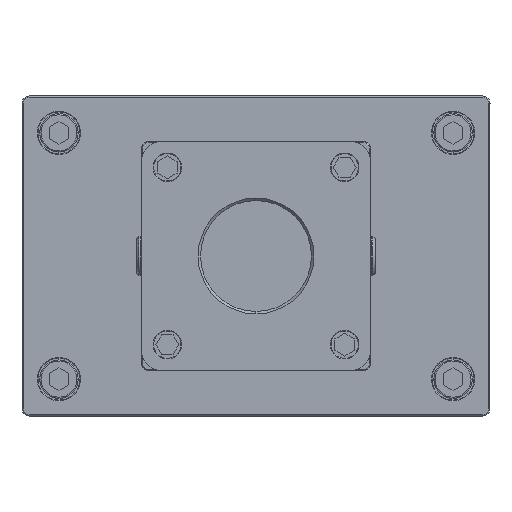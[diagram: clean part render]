
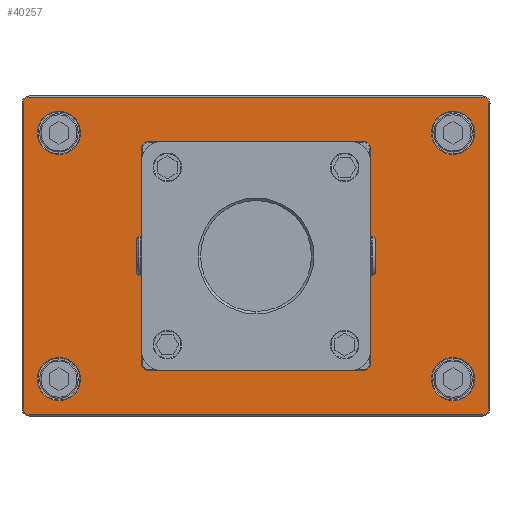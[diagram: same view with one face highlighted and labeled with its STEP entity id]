
A CAD part, front view. The second image highlights one B-rep face of the part: STEP entity #40257.
In plain terms, the highlighted planar face has unit normal (0, -1, 0) as drawn and (0, 1, 0) by its records, which use the part's own axes.
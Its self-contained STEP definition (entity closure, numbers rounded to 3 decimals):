
#38709=CARTESIAN_POINT('',(0.,9.,0.));
#38710=DIRECTION('',(0.,-1.,0.));
#38711=DIRECTION('',(1.,0.,0.));
#38712=AXIS2_PLACEMENT_3D('',#38709,#38710,#38711);
#38714=CARTESIAN_POINT('',(0.,9.,0.));
#38715=DIRECTION('',(0.,-1.,0.));
#38716=DIRECTION('',(-1.,0.,0.));
#38717=AXIS2_PLACEMENT_3D('',#38714,#38715,#38716);
#38719=CARTESIAN_POINT('',(-92.,9.,-62.));
#38720=DIRECTION('',(0.,1.,0.));
#38721=DIRECTION('',(0.,0.,-1.));
#38722=AXIS2_PLACEMENT_3D('',#38719,#38720,#38721);
#38724=DIRECTION('',(-1.,0.,0.));
#38725=VECTOR('',#38724,184.);
#38726=CARTESIAN_POINT('',(92.,9.,
-64.5));
#38727=LINE('',#38726,#38725);
#38728=CARTESIAN_POINT('',(92.,9.,-62.));
#38729=DIRECTION('',(0.,1.,0.));
#38730=DIRECTION('',(1.,0.,0.));
#38731=AXIS2_PLACEMENT_3D('',#38728,#38729,#38730);
#38733=DIRECTION('',(0.,0.,-1.));
#38734=VECTOR('',#38733,124.);
#38735=CARTESIAN_POINT('',(94.5,9.,62.));
#38736=LINE('',#38735,#38734);
#38737=CARTESIAN_POINT('',(92.,9.,62.));
#38738=DIRECTION('',(0.,1.,0.));
#38739=DIRECTION('',(0.,0.,1.));
#38740=AXIS2_PLACEMENT_3D('',#38737,#38738,#38739);
#38742=DIRECTION('',(1.,0.,0.));
#38743=VECTOR('',#38742,184.);
#38744=CARTESIAN_POINT('',(-92.,9.,
64.5));
#38745=LINE('',#38744,#38743);
#38746=CARTESIAN_POINT('',(-92.,9.,62.));
#38747=DIRECTION('',(0.,1.,0.));
#38748=DIRECTION('',(-1.,0.,0.));
#38749=AXIS2_PLACEMENT_3D('',#38746,#38747,#38748);
#38751=DIRECTION('',(0.,0.,1.));
#38752=VECTOR('',#38751,124.);
#38753=CARTESIAN_POINT('',(-94.5,9.,
-62.));
#38754=LINE('',#38753,#38752);
#38755=CARTESIAN_POINT('',(80.,9.,50.));
#38756=DIRECTION('',(0.,-1.,0.));
#38757=DIRECTION('',(1.,0.,0.));
#38758=AXIS2_PLACEMENT_3D('',#38755,#38756,#38757);
#38760=CARTESIAN_POINT('',(80.,9.,50.));
#38761=DIRECTION('',(0.,-1.,0.));
#38762=DIRECTION('',(-1.,0.,0.));
#38763=AXIS2_PLACEMENT_3D('',#38760,#38761,#38762);
#38765=CARTESIAN_POINT('',(-80.,9.,50.));
#38766=DIRECTION('',(0.,-1.,0.));
#38767=DIRECTION('',(1.,0.,0.));
#38768=AXIS2_PLACEMENT_3D('',#38765,#38766,#38767);
#38770=CARTESIAN_POINT('',(-80.,9.,50.));
#38771=DIRECTION('',(0.,-1.,0.));
#38772=DIRECTION('',(-1.,0.,0.));
#38773=AXIS2_PLACEMENT_3D('',#38770,#38771,#38772);
#38775=CARTESIAN_POINT('',(80.,9.,-50.));
#38776=DIRECTION('',(0.,-1.,0.));
#38777=DIRECTION('',(1.,0.,0.));
#38778=AXIS2_PLACEMENT_3D('',#38775,#38776,#38777);
#38780=CARTESIAN_POINT('',(80.,9.,-50.));
#38781=DIRECTION('',(0.,-1.,0.));
#38782=DIRECTION('',(-1.,0.,0.));
#38783=AXIS2_PLACEMENT_3D('',#38780,#38781,#38782);
#38785=CARTESIAN_POINT('',(-80.,9.,-50.));
#38786=DIRECTION('',(0.,-1.,0.));
#38787=DIRECTION('',(1.,0.,0.));
#38788=AXIS2_PLACEMENT_3D('',#38785,#38786,#38787);
#38790=CARTESIAN_POINT('',(-80.,9.,-50.));
#38791=DIRECTION('',(0.,-1.,0.));
#38792=DIRECTION('',(-1.,0.,0.));
#38793=AXIS2_PLACEMENT_3D('',#38790,#38791,#38792);
#38795=CARTESIAN_POINT('',(-36.,9.,-36.));
#38796=DIRECTION('',(0.,1.,0.));
#38797=DIRECTION('',(1.,0.,0.));
#38798=AXIS2_PLACEMENT_3D('',#38795,#38796,#38797);
#38800=CARTESIAN_POINT('',(-36.,9.,-36.));
#38801=DIRECTION('',(0.,1.,0.));
#38802=DIRECTION('',(-1.,0.,0.));
#38803=AXIS2_PLACEMENT_3D('',#38800,#38801,#38802);
#38805=CARTESIAN_POINT('',(-36.,9.,36.));
#38806=DIRECTION('',(0.,1.,0.));
#38807=DIRECTION('',(0.,0.,-1.));
#38808=AXIS2_PLACEMENT_3D('',#38805,#38806,#38807);
#38810=CARTESIAN_POINT('',(-36.,9.,36.));
#38811=DIRECTION('',(0.,1.,0.));
#38812=DIRECTION('',(0.,0.,1.));
#38813=AXIS2_PLACEMENT_3D('',#38810,#38811,#38812);
#38815=CARTESIAN_POINT('',(36.,9.,36.));
#38816=DIRECTION('',(0.,1.,0.));
#38817=DIRECTION('',(-1.,0.,0.));
#38818=AXIS2_PLACEMENT_3D('',#38815,#38816,#38817);
#38820=CARTESIAN_POINT('',(36.,9.,36.));
#38821=DIRECTION('',(0.,1.,0.));
#38822=DIRECTION('',(1.,0.,0.));
#38823=AXIS2_PLACEMENT_3D('',#38820,#38821,#38822);
#38825=CARTESIAN_POINT('',(36.,9.,-36.));
#38826=DIRECTION('',(0.,1.,0.));
#38827=DIRECTION('',(0.,0.,1.));
#38828=AXIS2_PLACEMENT_3D('',#38825,#38826,#38827);
#38830=CARTESIAN_POINT('',(36.,9.,-36.));
#38831=DIRECTION('',(0.,1.,0.));
#38832=DIRECTION('',(0.,0.,-1.));
#38833=AXIS2_PLACEMENT_3D('',#38830,#38831,#38832);
#39741=CARTESIAN_POINT('',(38.,9.,0.));
#39742=CARTESIAN_POINT('',(-38.,9.,0.));
#39743=VERTEX_POINT('',#39741);
#39744=VERTEX_POINT('',#39742);
#39789=CARTESIAN_POINT('',(-92.,9.,-64.5));
#39790=CARTESIAN_POINT('',(-94.5,9.,-62.));
#39791=VERTEX_POINT('',#39789);
#39792=VERTEX_POINT('',#39790);
#39797=CARTESIAN_POINT('',(-94.5,9.,
62.));
#39798=VERTEX_POINT('',#39797);
#39801=CARTESIAN_POINT('',(-92.,9.,64.5));
#39802=VERTEX_POINT('',#39801);
#39805=CARTESIAN_POINT('',(92.,9.,64.5));
#39806=VERTEX_POINT('',#39805);
#39809=CARTESIAN_POINT('',(94.5,9.,62.));
#39810=VERTEX_POINT('',#39809);
#39813=CARTESIAN_POINT('',(94.5,9.,
-62.));
#39814=VERTEX_POINT('',#39813);
#39817=CARTESIAN_POINT('',(92.,9.,-64.5));
#39818=VERTEX_POINT('',#39817);
#39837=CARTESIAN_POINT('',(88.8,9.,50.));
#39838=CARTESIAN_POINT('',(71.2,9.,50.));
#39839=VERTEX_POINT('',#39837);
#39840=VERTEX_POINT('',#39838);
#39861=CARTESIAN_POINT('',(-71.2,9.,50.));
#39862=CARTESIAN_POINT('',(-88.8,9.,50.));
#39863=VERTEX_POINT('',#39861);
#39864=VERTEX_POINT('',#39862);
#39877=CARTESIAN_POINT('',(88.8,9.,-50.));
#39878=CARTESIAN_POINT('',(71.2,9.,-50.));
#39879=VERTEX_POINT('',#39877);
#39880=VERTEX_POINT('',#39878);
#39885=CARTESIAN_POINT('',(-71.2,9.,-50.));
#39886=CARTESIAN_POINT('',(-88.8,9.,-50.));
#39887=VERTEX_POINT('',#39885);
#39888=VERTEX_POINT('',#39886);
#39985=CARTESIAN_POINT('',(-31.,9.,-36.));
#39986=CARTESIAN_POINT('',(-41.,9.,-36.));
#39987=VERTEX_POINT('',#39985);
#39988=VERTEX_POINT('',#39986);
#39993=CARTESIAN_POINT('',(-36.,9.,31.));
#39994=CARTESIAN_POINT('',(-36.,9.,41.));
#39995=VERTEX_POINT('',#39993);
#39996=VERTEX_POINT('',#39994);
#40001=CARTESIAN_POINT('',(31.,9.,36.));
#40002=CARTESIAN_POINT('',(41.,9.,36.));
#40003=VERTEX_POINT('',#40001);
#40004=VERTEX_POINT('',#40002);
#40009=CARTESIAN_POINT('',(36.,9.,-31.));
#40010=CARTESIAN_POINT('',(36.,9.,-41.));
#40011=VERTEX_POINT('',#40009);
#40012=VERTEX_POINT('',#40010);
#40181=CARTESIAN_POINT('',(0.,9.,0.));
#40182=DIRECTION('',(0.,1.,0.));
#40183=DIRECTION('',(1.,0.,0.));
#40184=AXIS2_PLACEMENT_3D('',#40181,#40182,#40183);
#40185=PLANE('',#40184);
#40187=ORIENTED_EDGE('',*,*,#40186,.F.);
#40189=ORIENTED_EDGE('',*,*,#40188,.F.);
#40191=ORIENTED_EDGE('',*,*,#40190,.F.);
#40193=ORIENTED_EDGE('',*,*,#40192,.F.);
#40195=ORIENTED_EDGE('',*,*,#40194,.F.);
#40197=ORIENTED_EDGE('',*,*,#40196,.F.);
#40199=ORIENTED_EDGE('',*,*,#40198,.F.);
#40201=ORIENTED_EDGE('',*,*,#40200,.F.);
#40202=EDGE_LOOP('',(#40187,#40189,#40191,#40193,#40195,#40197,#40199,#40201));
#40203=FACE_OUTER_BOUND('',#40202,.F.);
#40205=ORIENTED_EDGE('',*,*,#40204,.F.);
#40206=ORIENTED_EDGE('',*,*,#40171,.F.);
#40207=EDGE_LOOP('',(#40205,#40206));
#40208=FACE_BOUND('',#40207,.F.);
#40210=ORIENTED_EDGE('',*,*,#40209,.F.);
#40212=ORIENTED_EDGE('',*,*,#40211,.F.);
#40213=EDGE_LOOP('',(#40210,#40212));
#40214=FACE_BOUND('',#40213,.F.);
#40216=ORIENTED_EDGE('',*,*,#40215,.F.);
#40218=ORIENTED_EDGE('',*,*,#40217,.F.);
#40219=EDGE_LOOP('',(#40216,#40218));
#40220=FACE_BOUND('',#40219,.F.);
#40222=ORIENTED_EDGE('',*,*,#40221,.F.);
#40224=ORIENTED_EDGE('',*,*,#40223,.F.);
#40225=EDGE_LOOP('',(#40222,#40224));
#40226=FACE_BOUND('',#40225,.F.);
#40228=ORIENTED_EDGE('',*,*,#40227,.F.);
#40230=ORIENTED_EDGE('',*,*,#40229,.F.);
#40231=EDGE_LOOP('',(#40228,#40230));
#40232=FACE_BOUND('',#40231,.F.);
#40234=ORIENTED_EDGE('',*,*,#40233,.T.);
#40236=ORIENTED_EDGE('',*,*,#40235,.T.);
#40237=EDGE_LOOP('',(#40234,#40236));
#40238=FACE_BOUND('',#40237,.F.);
#40240=ORIENTED_EDGE('',*,*,#40239,.T.);
#40242=ORIENTED_EDGE('',*,*,#40241,.T.);
#40243=EDGE_LOOP('',(#40240,#40242));
#40244=FACE_BOUND('',#40243,.F.);
#40246=ORIENTED_EDGE('',*,*,#40245,.T.);
#40248=ORIENTED_EDGE('',*,*,#40247,.T.);
#40249=EDGE_LOOP('',(#40246,#40248));
#40250=FACE_BOUND('',#40249,.F.);
#40252=ORIENTED_EDGE('',*,*,#40251,.T.);
#40254=ORIENTED_EDGE('',*,*,#40253,.T.);
#40255=EDGE_LOOP('',(#40252,#40254));
#40256=FACE_BOUND('',#40255,.F.);
#40257=ADVANCED_FACE('',(#40203,#40208,#40214,#40220,#40226,#40232,#40238,
#40244,#40250,#40256),#40185,.T.);
#38713=CIRCLE('',#38712,38.);
#38718=CIRCLE('',#38717,38.);
#38723=CIRCLE('',#38722,2.5);
#38732=CIRCLE('',#38731,2.5);
#38741=CIRCLE('',#38740,2.5);
#38750=CIRCLE('',#38749,2.5);
#38759=CIRCLE('',#38758,8.8);
#38764=CIRCLE('',#38763,8.8);
#38769=CIRCLE('',#38768,8.8);
#38774=CIRCLE('',#38773,8.8);
#38779=CIRCLE('',#38778,8.8);
#38784=CIRCLE('',#38783,8.8);
#38789=CIRCLE('',#38788,8.8);
#38794=CIRCLE('',#38793,8.8);
#38799=CIRCLE('',#38798,5.);
#38804=CIRCLE('',#38803,5.);
#38809=CIRCLE('',#38808,5.);
#38814=CIRCLE('',#38813,5.);
#38819=CIRCLE('',#38818,5.);
#38824=CIRCLE('',#38823,5.);
#38829=CIRCLE('',#38828,5.);
#38834=CIRCLE('',#38833,5.);
#40171=EDGE_CURVE('',#39744,#39743,#38718,.T.);
#40186=EDGE_CURVE('',#39791,#39792,#38723,.T.);
#40188=EDGE_CURVE('',#39818,#39791,#38727,.T.);
#40190=EDGE_CURVE('',#39814,#39818,#38732,.T.);
#40192=EDGE_CURVE('',#39810,#39814,#38736,.T.);
#40194=EDGE_CURVE('',#39806,#39810,#38741,.T.);
#40196=EDGE_CURVE('',#39802,#39806,#38745,.T.);
#40198=EDGE_CURVE('',#39798,#39802,#38750,.T.);
#40200=EDGE_CURVE('',#39792,#39798,#38754,.T.);
#40204=EDGE_CURVE('',#39743,#39744,#38713,.T.);
#40209=EDGE_CURVE('',#39839,#39840,#38759,.T.);
#40211=EDGE_CURVE('',#39840,#39839,#38764,.T.);
#40215=EDGE_CURVE('',#39863,#39864,#38769,.T.);
#40217=EDGE_CURVE('',#39864,#39863,#38774,.T.);
#40221=EDGE_CURVE('',#39879,#39880,#38779,.T.);
#40223=EDGE_CURVE('',#39880,#39879,#38784,.T.);
#40227=EDGE_CURVE('',#39887,#39888,#38789,.T.);
#40229=EDGE_CURVE('',#39888,#39887,#38794,.T.);
#40233=EDGE_CURVE('',#39987,#39988,#38799,.T.);
#40235=EDGE_CURVE('',#39988,#39987,#38804,.T.);
#40239=EDGE_CURVE('',#39995,#39996,#38809,.T.);
#40241=EDGE_CURVE('',#39996,#39995,#38814,.T.);
#40245=EDGE_CURVE('',#40003,#40004,#38819,.T.);
#40247=EDGE_CURVE('',#40004,#40003,#38824,.T.);
#40251=EDGE_CURVE('',#40011,#40012,#38829,.T.);
#40253=EDGE_CURVE('',#40012,#40011,#38834,.T.);
